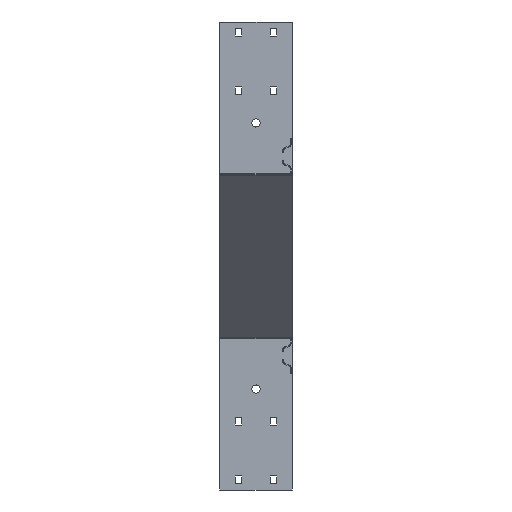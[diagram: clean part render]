
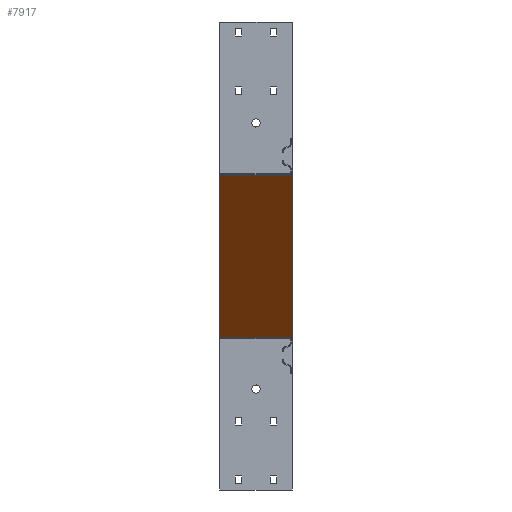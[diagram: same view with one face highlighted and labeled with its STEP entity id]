
A CAD part, left-side view. The second image highlights one B-rep face of the part: STEP entity #7917.
In plain terms, the highlighted planar face has unit normal (-0.682, 0, -0.731) as drawn and (0.682, 0, -0.731) by its records, which use the part's own axes.
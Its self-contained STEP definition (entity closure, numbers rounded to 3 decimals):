
#573 = VECTOR ( 'NONE', #5015, 1000. ) ;
#939 = CARTESIAN_POINT ( 'NONE',  ( 451.365, 124., -1.462 ) ) ;
#1022 = VECTOR ( 'NONE', #3702, 1000. ) ;
#2136 = ORIENTED_EDGE ( 'NONE', *, *, #10808, .T. ) ;
#2757 = CARTESIAN_POINT ( 'NONE',  ( 152.477, 0., -280.424 ) ) ;
#2864 = LINE ( 'NONE', #2757, #2895 ) ;
#2895 = VECTOR ( 'NONE', #9685, 1000. ) ;
#2987 = VERTEX_POINT ( 'NONE', #10024 ) ;
#3513 = CARTESIAN_POINT ( 'NONE',  ( 152.477, 124., -280.424 ) ) ;
#3575 = VERTEX_POINT ( 'NONE', #4237 ) ;
#3628 = EDGE_CURVE ( 'NONE', #3575, #9951, #7085, .T. ) ;
#3702 = DIRECTION ( 'NONE',  ( -0.731, 0., -0.682 ) ) ;
#3842 = AXIS2_PLACEMENT_3D ( 'NONE', #8260, #9079, #9677 ) ;
#4004 = EDGE_LOOP ( 'NONE', ( #8153, #2136, #8810, #4732 ) ) ;
#4237 = CARTESIAN_POINT ( 'NONE',  ( 450.888, 0., -1.907 ) ) ;
#4282 = VECTOR ( 'NONE', #5386, 1000. ) ;
#4617 = CARTESIAN_POINT ( 'NONE',  ( 450.888, 0., -1.907 ) ) ;
#4732 = ORIENTED_EDGE ( 'NONE', *, *, #3628, .F. ) ;
#5015 = DIRECTION ( 'NONE',  ( -0.731, 0., -0.682 ) ) ;
#5221 = EDGE_CURVE ( 'NONE', #9951, #9430, #7487, .T. ) ;
#5386 = DIRECTION ( 'NONE',  ( 0., 1., 0. ) ) ;
#5724 = PLANE ( 'NONE',  #3842 ) ;
#7085 = LINE ( 'NONE', #4617, #4282 ) ;
#7487 = LINE ( 'NONE', #939, #573 ) ;
#7917 = ADVANCED_FACE ( 'NONE', ( #9958 ), #5724, .F. ) ;
#7932 = CARTESIAN_POINT ( 'NONE',  ( 451.365, 0., -1.462 ) ) ;
#8153 = ORIENTED_EDGE ( 'NONE', *, *, #8567, .T. ) ;
#8260 = CARTESIAN_POINT ( 'NONE',  ( 451.365, 124., -1.462 ) ) ;
#8567 = EDGE_CURVE ( 'NONE', #3575, #2987, #10404, .T. ) ;
#8810 = ORIENTED_EDGE ( 'NONE', *, *, #5221, .F. ) ;
#9079 = DIRECTION ( 'NONE',  ( -0.682, 0., 0.731 ) ) ;
#9430 = VERTEX_POINT ( 'NONE', #3513 ) ;
#9554 = CARTESIAN_POINT ( 'NONE',  ( 450.888, 124., -1.907 ) ) ;
#9677 = DIRECTION ( 'NONE',  ( 0.731, 0., 0.682 ) ) ;
#9685 = DIRECTION ( 'NONE',  ( 0., 1., 0. ) ) ;
#9951 = VERTEX_POINT ( 'NONE', #9554 ) ;
#9958 = FACE_OUTER_BOUND ( 'NONE', #4004, .T. ) ;
#10024 = CARTESIAN_POINT ( 'NONE',  ( 152.477, 0., -280.424 ) ) ;
#10404 = LINE ( 'NONE', #7932, #1022 ) ;
#10808 = EDGE_CURVE ( 'NONE', #2987, #9430, #2864, .T. ) ;
